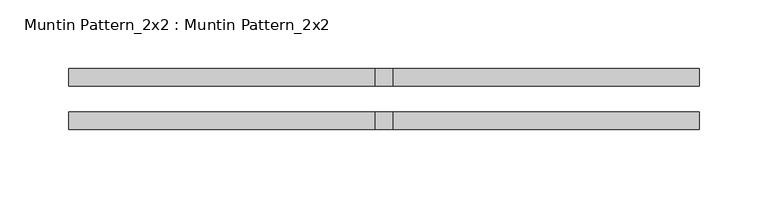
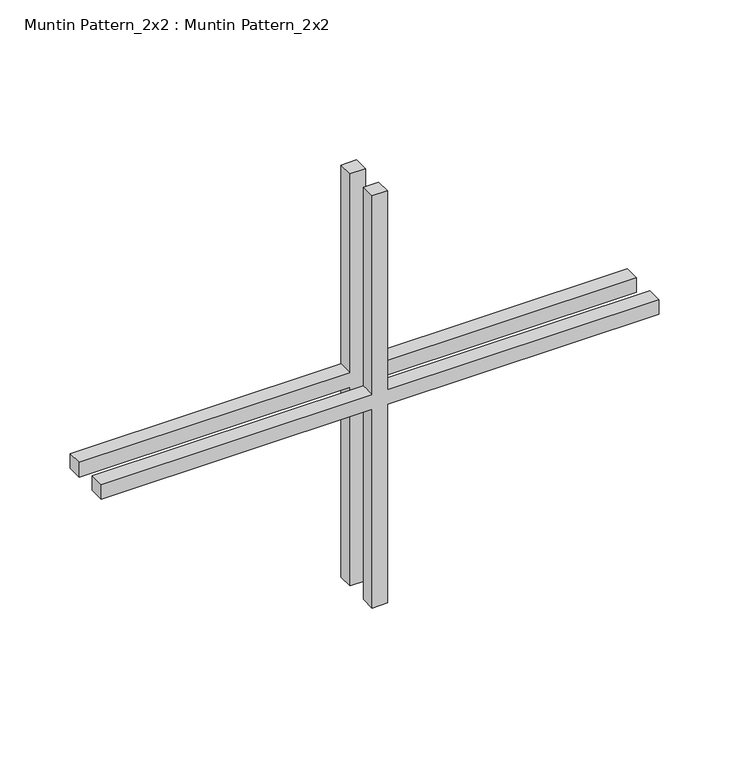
"""IFC4 building model written with IfcOpenShell, lengths in millimetres: proxy geometry, Muntin Pattern_2x2 : Muntin Pattern_2x2."""

from ifc_helpers import new_model, si_unit, frame, origin, place, context, project, spatial, polyline, outline, extrude, source, transform, mapped, element, save


def muntin_pattern_2x2_muntin_pattern_2x2_6dbbc680(model_context):
    return source(origin(), model_context, "Body", "SweptSolid", [
        extrude(outline(polyline([(185.7375, -6.35), (185.7375, -229.6583333), (173.0375, -229.6583333), (173.0375, -6.35), (0.0, -6.35), (0.0, 6.35), (173.0375, 6.35), (173.0375, 229.6583333), (185.7375, 229.6583333), (185.7375, 6.35), (358.775, 6.35), (358.775, -6.35), (185.7375, -6.35)])), frame((0.0, 9.525, 0.0), z_axis=(0.0, 1.0, 0.0), x_axis=(0.0, 0.0, 1.0)), (0.0, 0.0, 1.0), 12.7),
        extrude(outline(polyline([(185.7375, -6.35), (185.7375, -229.6583333), (173.0375, -229.6583333), (173.0375, -6.35), (0.0, -6.35), (0.0, 6.35), (173.0375, 6.35), (173.0375, 229.6583333), (185.7375, 229.6583333), (185.7375, 6.35), (358.775, 6.35), (358.775, -6.35), (185.7375, -6.35)])), frame((0.0, -22.225, 0.0), z_axis=(0.0, 1.0, 0.0), x_axis=(0.0, 0.0, 1.0)), (0.0, 0.0, 1.0), 12.7),
    ])


if __name__ == "__main__":
    model = new_model("IFC4")
    model_context = context("Model", 3, world=origin())
    ifc_project = project(units=[si_unit("LENGTHUNIT", "METRE", prefix="MILLI")], contexts=[model_context])
    site = spatial("IfcSite", under=ifc_project)
    building = spatial("IfcBuilding", under=site)
    placement = place(None, origin())
    muntin_pattern_2x2_muntin_pattern_2x2_shape = muntin_pattern_2x2_muntin_pattern_2x2_6dbbc680(model_context)
    element("IfcBuildingElementProxy", 1, Name="Muntin Pattern_2x2 : Muntin Pattern_2x2", ObjectType="Muntin Pattern_2x2 : Muntin Pattern_2x2", at=placement, inside=building, context=model_context, shape_type="MappedRepresentation", body=[
        mapped(muntin_pattern_2x2_muntin_pattern_2x2_shape, transform((0.0, 0.0, 0.0), x_axis=(1.0, 0.0, 0.0), y_axis=(0.0, 1.0, 0.0), z_axis=(0.0, 0.0, 1.0))),
    ])
    save(model, "model.ifc")
